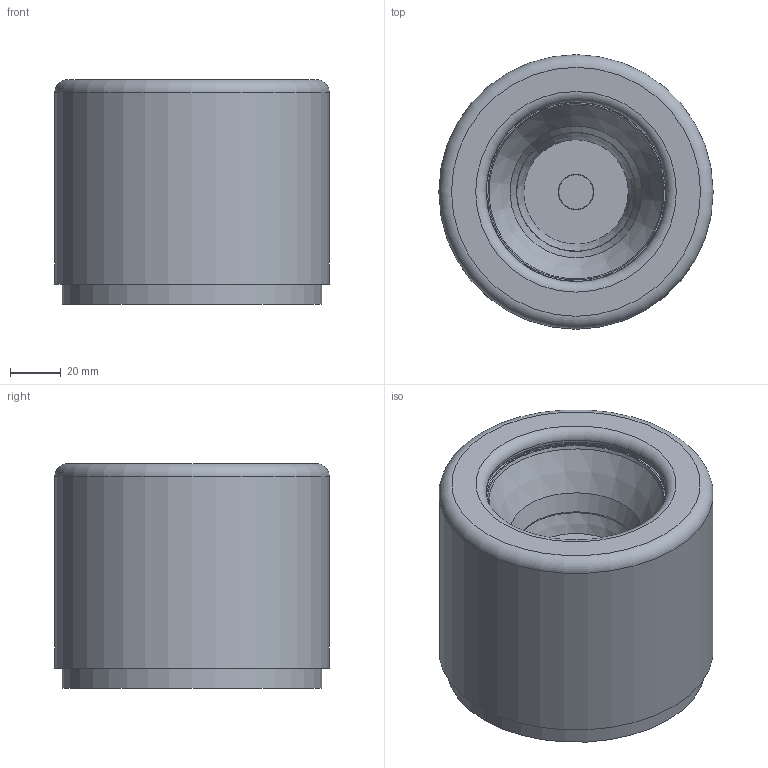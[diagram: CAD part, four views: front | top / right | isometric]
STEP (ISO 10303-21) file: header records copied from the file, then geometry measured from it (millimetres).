
FILE_DESCRIPTION(/* description */ (''),/* implementation_level */ '2;1');
FILE_NAME(/* name */ 'C:/Users/elena/OneDrive/Allegati di posta elettronica/Desktop/Iride Ceiling Mini.step',/* time_stamp */ '2020-05-13T11:30:09+02:00',/* author */ (''),/* organization */ (''),/* preprocessor_version */ 'ST-DEVELOPER v18.1',/* originating_system */ 'Autodesk Translation Framework v9.3.0.1241',/* authorisation */ '');
FILE_SCHEMA (('AUTOMOTIVE_DESIGN { 1 0 10303 214 3 1 1 }'));
Length unit declared in the file: millimetre
Products named in the file (1): Pubblico
Bounding box: 108 x 108 x 88.5 mm (x, y, z)
Volume: 312110.1 mm3; surface area: 116022.8 mm2
Topology: 3 solids, 3 shells, 94 faces, 214 edges, 133 vertices
Faces by surface type: plane 37, cylinder 24, cone 20, bspline 9, torus 4
Full cylindrical faces by diameter (mm): 71 x1, 75 x1, 92.1 x1, 99.108 x1, 99.11 x1, 102.1 x2, 108 x1
Entity records: 3508 total; most frequent: CARTESIAN_POINT 1390, DIRECTION 432, ORIENTED_EDGE 428, EDGE_CURVE 214, AXIS2_PLACEMENT_3D 188, VERTEX_POINT 133, EDGE_LOOP 103, CIRCLE 102
